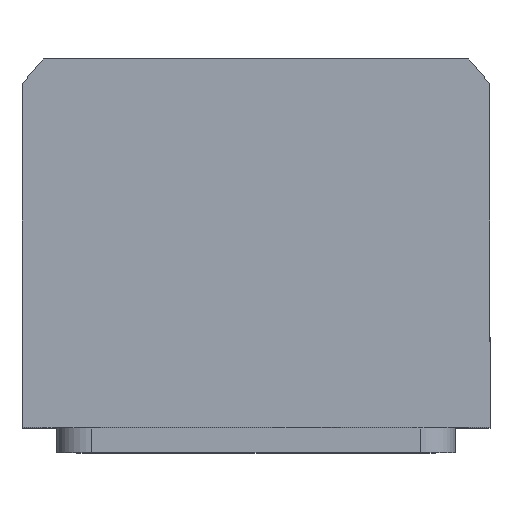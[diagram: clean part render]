
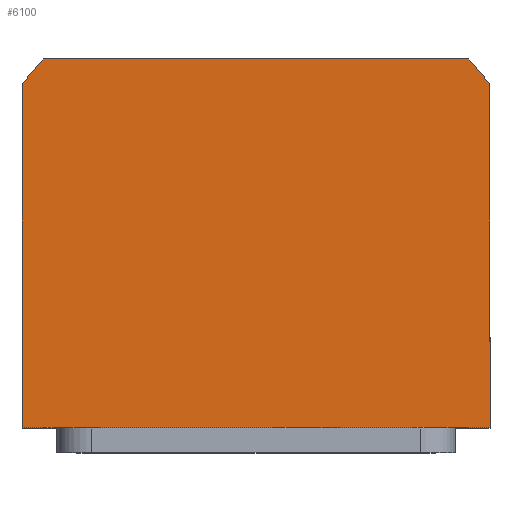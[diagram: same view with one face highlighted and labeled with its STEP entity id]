
A CAD part, top view. The second image highlights one B-rep face of the part: STEP entity #6100.
In plain terms, the highlighted planar face has unit normal (0, 0, 1).
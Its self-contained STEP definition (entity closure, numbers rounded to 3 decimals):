
#587 = ORIENTED_EDGE ( 'NONE', *, *, #14314, .T. ) ;
#786 = CARTESIAN_POINT ( 'NONE',  ( 0., 0., 60. ) ) ;
#938 = CARTESIAN_POINT ( 'NONE',  ( -42.688, 40., 60. ) ) ;
#1038 = VECTOR ( 'NONE', #13107, 1000. ) ;
#1112 = VERTEX_POINT ( 'NONE', #2913 ) ;
#1260 = CARTESIAN_POINT ( 'NONE',  ( -42.688, 40., 60. ) ) ;
#1859 = DIRECTION ( 'NONE',  ( 1., 0., 0. ) ) ;
#2414 = DIRECTION ( 'NONE',  ( 0., 0., 1. ) ) ;
#2493 = CARTESIAN_POINT ( 'NONE',  ( -47., 34.832, 60. ) ) ;
#2788 = CARTESIAN_POINT ( 'NONE',  ( 47., 34.832, 60. ) ) ;
#2831 = VECTOR ( 'NONE', #7806, 1000. ) ;
#2913 = CARTESIAN_POINT ( 'NONE',  ( 47., 34.832, 60. ) ) ;
#3910 = VERTEX_POINT ( 'NONE', #14152 ) ;
#4200 = DIRECTION ( 'NONE',  ( 0., 0., 1. ) ) ;
#4490 = FACE_OUTER_BOUND ( 'NONE', #8581, .T. ) ;
#4752 = DIRECTION ( 'NONE',  ( 1., 0., 0. ) ) ;
#4808 = CARTESIAN_POINT ( 'NONE',  ( 0., 0., 60. ) ) ;
#5136 = EDGE_CURVE ( 'NONE', #5446, #7340, #9802, .T. ) ;
#5446 = VERTEX_POINT ( 'NONE', #7905 ) ;
#5896 = CIRCLE ( 'NONE', #8616, 58.5 ) ;
#6026 = PLANE ( 'NONE',  #11351 ) ;
#6100 = ADVANCED_FACE ( 'NONE', ( #4490 ), #6026, .T. ) ;
#6442 = LINE ( 'NONE', #8284, #14194 ) ;
#6751 = VECTOR ( 'NONE', #10462, 1000. ) ;
#7340 = VERTEX_POINT ( 'NONE', #938 ) ;
#7806 = DIRECTION ( 'NONE',  ( 0., -1., 0. ) ) ;
#7858 = VERTEX_POINT ( 'NONE', #2493 ) ;
#7893 = ORIENTED_EDGE ( 'NONE', *, *, #9246, .T. ) ;
#7905 = CARTESIAN_POINT ( 'NONE',  ( 42.688, 40., 60. ) ) ;
#8284 = CARTESIAN_POINT ( 'NONE',  ( 47., -34., 60. ) ) ;
#8581 = EDGE_LOOP ( 'NONE', ( #7893, #12382, #10220, #11496, #587, #11205 ) ) ;
#8616 = AXIS2_PLACEMENT_3D ( 'NONE', #786, #4200, #1859 ) ;
#8859 = DIRECTION ( 'NONE',  ( 0., 0., 1. ) ) ;
#9246 = EDGE_CURVE ( 'NONE', #3910, #12486, #6442, .T. ) ;
#9802 = LINE ( 'NONE', #1260, #6751 ) ;
#10122 = CARTESIAN_POINT ( 'NONE',  ( -47., -34., 60. ) ) ;
#10220 = ORIENTED_EDGE ( 'NONE', *, *, #14207, .T. ) ;
#10257 = EDGE_CURVE ( 'NONE', #12486, #1112, #13646, .T. ) ;
#10462 = DIRECTION ( 'NONE',  ( -1., 0., 0. ) ) ;
#10582 = LINE ( 'NONE', #10122, #2831 ) ;
#11205 = ORIENTED_EDGE ( 'NONE', *, *, #14371, .T. ) ;
#11351 = AXIS2_PLACEMENT_3D ( 'NONE', #4808, #2414, #11621 ) ;
#11496 = ORIENTED_EDGE ( 'NONE', *, *, #5136, .T. ) ;
#11621 = DIRECTION ( 'NONE',  ( 1., 0., 0. ) ) ;
#12192 = DIRECTION ( 'NONE',  ( 1., 0., 0. ) ) ;
#12382 = ORIENTED_EDGE ( 'NONE', *, *, #10257, .T. ) ;
#12486 = VERTEX_POINT ( 'NONE', #14706 ) ;
#13107 = DIRECTION ( 'NONE',  ( 0., 1., 0. ) ) ;
#13646 = LINE ( 'NONE', #2788, #1038 ) ;
#13829 = AXIS2_PLACEMENT_3D ( 'NONE', #14565, #8859, #12192 ) ;
#14152 = CARTESIAN_POINT ( 'NONE',  ( -47., -34., 60. ) ) ;
#14194 = VECTOR ( 'NONE', #4752, 1000. ) ;
#14207 = EDGE_CURVE ( 'NONE', #1112, #5446, #5896, .T. ) ;
#14314 = EDGE_CURVE ( 'NONE', #7340, #7858, #14357, .T. ) ;
#14357 = CIRCLE ( 'NONE', #13829, 58.5 ) ;
#14371 = EDGE_CURVE ( 'NONE', #7858, #3910, #10582, .T. ) ;
#14565 = CARTESIAN_POINT ( 'NONE',  ( 0., 0., 60. ) ) ;
#14706 = CARTESIAN_POINT ( 'NONE',  ( 47., -34., 60. ) ) ;
